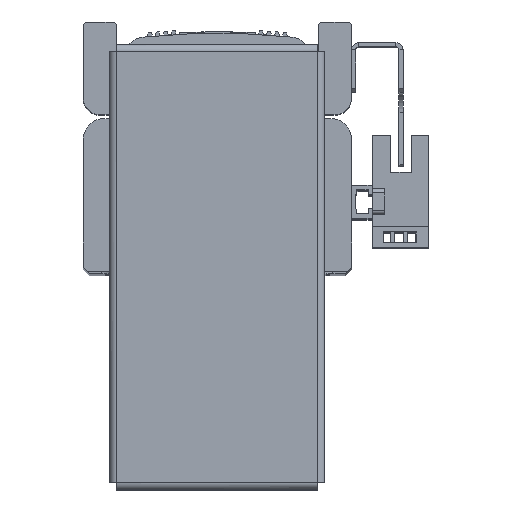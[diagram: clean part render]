
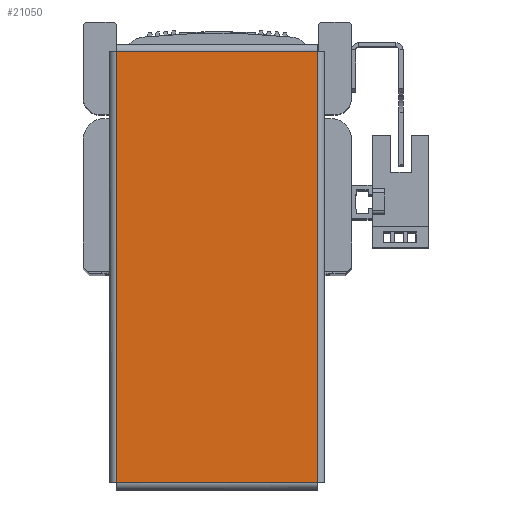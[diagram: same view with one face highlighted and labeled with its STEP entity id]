
A CAD part, top view. The second image highlights one B-rep face of the part: STEP entity #21050.
In plain terms, the highlighted planar face has unit normal (0, 0, 1) as drawn and (0, 0, -1) by its records, which use the part's own axes.
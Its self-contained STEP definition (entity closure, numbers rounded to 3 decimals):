
#576 = EDGE_CURVE ( 'NONE', #15939, #15931, #30381, .T. ) ;
#609 = EDGE_CURVE ( 'NONE', #15931, #15920, #30443, .T. ) ;
#626 = EDGE_CURVE ( 'NONE', #15920, #15954, #30394, .T. ) ;
#646 = EDGE_CURVE ( 'NONE', #15954, #15939, #30387, .T. ) ;
#15920 = VERTEX_POINT ( 'NONE', #17666 ) ;
#15931 = VERTEX_POINT ( 'NONE', #17701 ) ;
#15939 = VERTEX_POINT ( 'NONE', #17703 ) ;
#15954 = VERTEX_POINT ( 'NONE', #17667 ) ;
#16747 = DIRECTION ( 'NONE',  ( 0., 1., 0. ) ) ;
#16787 = CARTESIAN_POINT ( 'NONE',  ( -52.263, -24.393, -1. ) ) ;
#16803 = DIRECTION ( 'NONE',  ( 1., 0., 0. ) ) ;
#16830 = CARTESIAN_POINT ( 'NONE',  ( -52.293, 24.363, -1. ) ) ;
#17666 = CARTESIAN_POINT ( 'NONE',  ( -52.263, -24.363, -1. ) ) ;
#17667 = CARTESIAN_POINT ( 'NONE',  ( -52.263, 24.363, -1. ) ) ;
#17701 = CARTESIAN_POINT ( 'NONE',  ( 52.263, -24.363, -1. ) ) ;
#17703 = CARTESIAN_POINT ( 'NONE',  ( 52.263, 24.363, -1. ) ) ;
#18366 = CARTESIAN_POINT ( 'NONE',  ( 0., 0., -1. ) ) ;
#18384 = PLANE ( 'NONE',  #38240 ) ;
#18396 = DIRECTION ( 'NONE',  ( 0., 0., 1. ) ) ;
#18397 = DIRECTION ( 'NONE',  ( 1., 0., 0. ) ) ;
#21050 = ADVANCED_FACE ( 'NONE', ( #30761 ), #18384, .F. ) ;
#21954 = CARTESIAN_POINT ( 'NONE',  ( 52.263, 24.393, -1. ) ) ;
#21977 = DIRECTION ( 'NONE',  ( 0., -1., 0. ) ) ;
#25574 = ORIENTED_EDGE ( 'NONE', *, *, #646, .T. ) ;
#25581 = ORIENTED_EDGE ( 'NONE', *, *, #626, .T. ) ;
#25602 = ORIENTED_EDGE ( 'NONE', *, *, #576, .T. ) ;
#25606 = ORIENTED_EDGE ( 'NONE', *, *, #609, .T. ) ;
#28949 = EDGE_LOOP ( 'NONE', ( #25602, #25606, #25581, #25574 ) ) ;
#30350 = VECTOR ( 'NONE', #21977, 1000. ) ;
#30381 = LINE ( 'NONE', #21954, #30350 ) ;
#30384 = VECTOR ( 'NONE', #16747, 1000. ) ;
#30387 = LINE ( 'NONE', #16830, #30402 ) ;
#30394 = LINE ( 'NONE', #16787, #30384 ) ;
#30402 = VECTOR ( 'NONE', #16803, 1000. ) ;
#30406 = VECTOR ( 'NONE', #35577, 1000. ) ;
#30443 = LINE ( 'NONE', #35556, #30406 ) ;
#30761 = FACE_OUTER_BOUND ( 'NONE', #28949, .T. ) ;
#35556 = CARTESIAN_POINT ( 'NONE',  ( 52.293, -24.363, -1. ) ) ;
#35577 = DIRECTION ( 'NONE',  ( -1., 0., 0. ) ) ;
#38240 = AXIS2_PLACEMENT_3D ( 'NONE', #18366, #18396, #18397 ) ;
